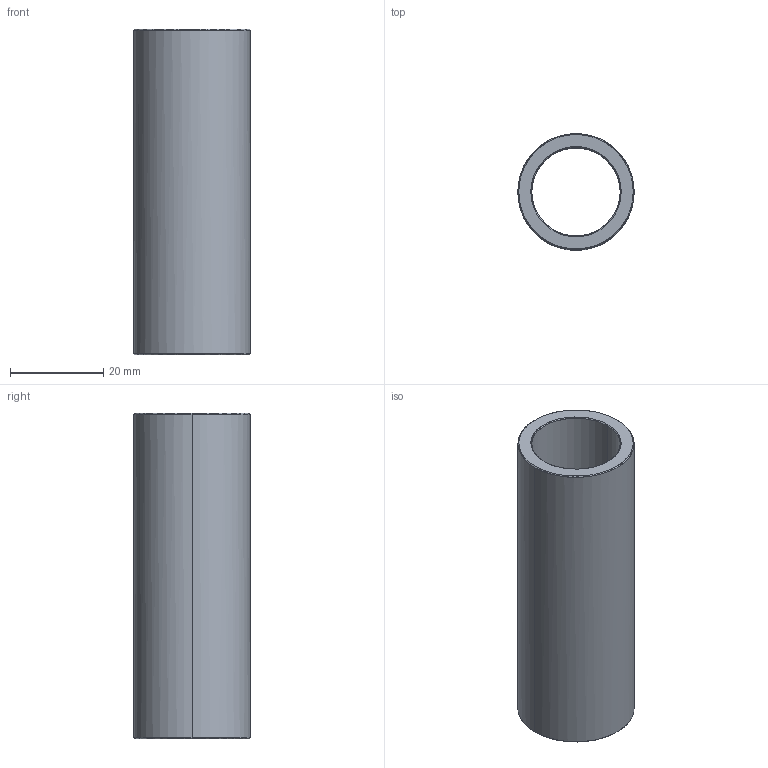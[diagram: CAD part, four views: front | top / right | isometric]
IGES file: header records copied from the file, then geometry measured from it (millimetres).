
Start section: Write IGES format                                    datakit 2008 (c)
Global section: file name: Unknown; native system: DATAKIT Converter; preprocessor: Unknown; author: Unknown; organization: Unknown; date: 950613.180003; units: millimetre
Bounding box: 25 x 24.99 x 70 mm (x, y, z)
Surface area: 10058.4 mm2 (no closed solid volume)
Topology: 0 solids, 0 shells, 14 faces, 56 edges, 56 vertices
Faces by surface type: revolution 12, bspline 2
